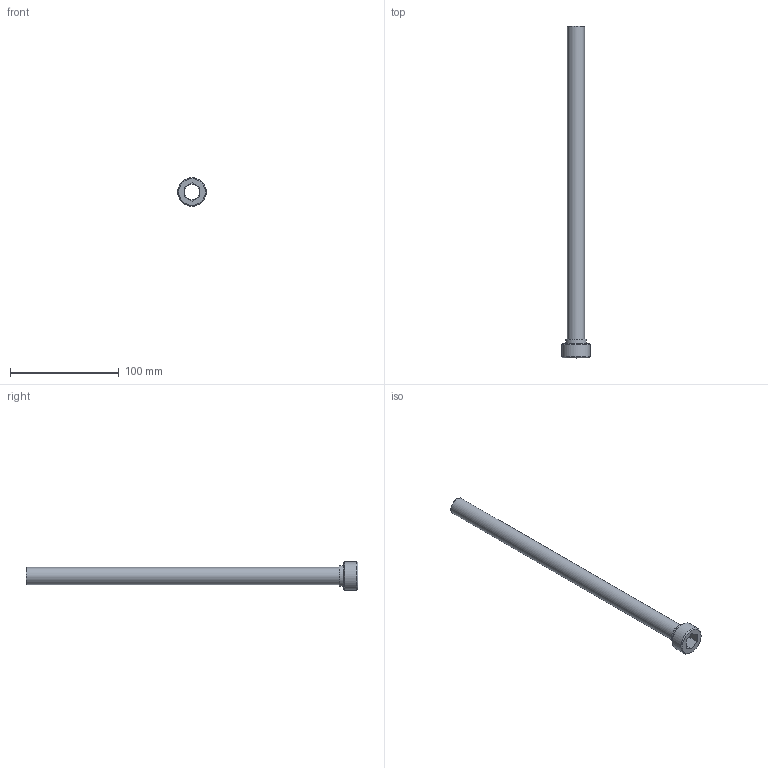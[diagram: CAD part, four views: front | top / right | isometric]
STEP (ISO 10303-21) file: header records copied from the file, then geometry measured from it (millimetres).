
FILE_DESCRIPTION(/* description */ (''),/* implementation_level */ '2;1');
FILE_NAME(/* name */ 'C:/Users/drich/Desktop/PT34-625-12 v1.step',/* time_stamp */ '2019-12-27T15:50:12-06:00',/* author */ (''),/* organization */ (''),/* preprocessor_version */ 'ST-DEVELOPER v18',/* originating_system */ 'Autodesk Translation Framework v8.12.0.6',/* authorisation */ '');
FILE_SCHEMA (('AUTOMOTIVE_DESIGN { 1 0 10303 214 3 1 1 }'));
Length unit declared in the file: inch
Products named in the file (1): PT34-625-12
Bounding box: 26.3 x 304.8 x 26.3 mm (x, y, z)
Volume: 14689 mm3; surface area: 30197.3 mm2
Topology: 1 solids, 1 shells, 19 faces, 48 edges, 34 vertices
Faces by surface type: plane 11, cylinder 4, torus 2, cone 2
Full cylindrical faces by diameter (mm): 14.453 x1, 15.85 x1, 19.05 x1, 26.299 x1
Entity records: 633 total; most frequent: DIRECTION 112, CARTESIAN_POINT 102, ORIENTED_EDGE 96, EDGE_CURVE 48, AXIS2_PLACEMENT_3D 44, VERTEX_POINT 34, CIRCLE 24, EDGE_LOOP 24
